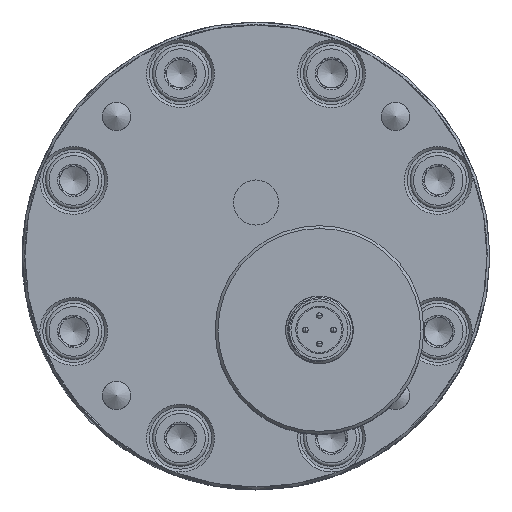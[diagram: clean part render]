
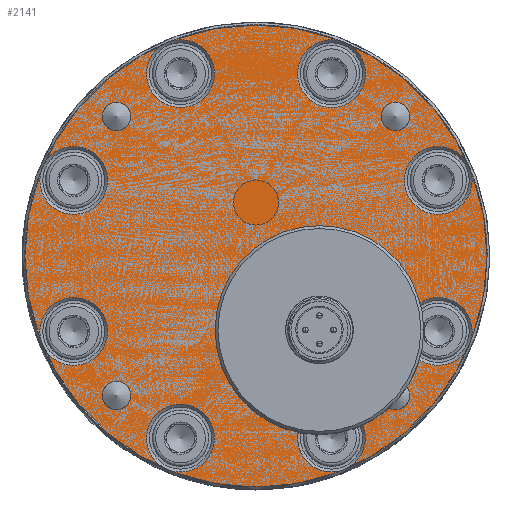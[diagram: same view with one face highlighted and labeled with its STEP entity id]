
A CAD part, top view. The second image highlights one B-rep face of the part: STEP entity #2141.
In plain terms, the highlighted planar face has unit normal (0, 0, -1).
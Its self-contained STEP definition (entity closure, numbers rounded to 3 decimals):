
#2141=ADVANCED_FACE('',(#2641,#2642,#2643,#2644,#2645,#2646,#2647,#2648,
#2649,#2650,#2651,#2652,#2653),#2395,.F.);
#2395=PLANE('',#8486);
#2641=FACE_BOUND('',#3363,.T.);
#2642=FACE_BOUND('',#3364,.T.);
#2643=FACE_BOUND('',#3365,.T.);
#2644=FACE_BOUND('',#3366,.T.);
#2645=FACE_BOUND('',#3367,.T.);
#2646=FACE_BOUND('',#3368,.T.);
#2647=FACE_BOUND('',#3369,.T.);
#2648=FACE_BOUND('',#3370,.T.);
#2649=FACE_BOUND('',#3371,.T.);
#2650=FACE_BOUND('',#3372,.T.);
#2651=FACE_BOUND('',#3373,.T.);
#2652=FACE_BOUND('',#3374,.T.);
#2653=FACE_BOUND('',#3375,.T.);
#3363=EDGE_LOOP('',(#5231));
#3364=EDGE_LOOP('',(#5232));
#3365=EDGE_LOOP('',(#5233));
#3366=EDGE_LOOP('',(#5234));
#3367=EDGE_LOOP('',(#5235));
#3368=EDGE_LOOP('',(#5236));
#3369=EDGE_LOOP('',(#5237));
#3370=EDGE_LOOP('',(#5238));
#3371=EDGE_LOOP('',(#5239));
#3372=EDGE_LOOP('',(#5240));
#3373=EDGE_LOOP('',(#5241));
#3374=EDGE_LOOP('',(#5242));
#3375=EDGE_LOOP('',(#5243));
#5231=ORIENTED_EDGE('',*,*,#7082,.T.);
#5232=ORIENTED_EDGE('',*,*,#7052,.T.);
#5233=ORIENTED_EDGE('',*,*,#7044,.T.);
#5234=ORIENTED_EDGE('',*,*,#7024,.T.);
#5235=ORIENTED_EDGE('',*,*,#7040,.T.);
#5236=ORIENTED_EDGE('',*,*,#7048,.T.);
#5237=ORIENTED_EDGE('',*,*,#7028,.T.);
#5238=ORIENTED_EDGE('',*,*,#7036,.T.);
#5239=ORIENTED_EDGE('',*,*,#7032,.T.);
#5240=ORIENTED_EDGE('',*,*,#7083,.T.);
#5241=ORIENTED_EDGE('',*,*,#7084,.T.);
#5242=ORIENTED_EDGE('',*,*,#7085,.T.);
#5243=ORIENTED_EDGE('',*,*,#7086,.T.);
#6039=VERTEX_POINT('',#17479);
#6043=VERTEX_POINT('',#17490);
#6047=VERTEX_POINT('',#17501);
#6051=VERTEX_POINT('',#17512);
#6055=VERTEX_POINT('',#17523);
#6059=VERTEX_POINT('',#17534);
#6063=VERTEX_POINT('',#17545);
#6067=VERTEX_POINT('',#17556);
#6089=VERTEX_POINT('',#17612);
#6090=VERTEX_POINT('',#17614);
#6091=VERTEX_POINT('',#17616);
#6092=VERTEX_POINT('',#17618);
#6093=VERTEX_POINT('',#17620);
#7024=EDGE_CURVE('',#6039,#6039,#7547,.T.);
#7028=EDGE_CURVE('',#6043,#6043,#7551,.T.);
#7032=EDGE_CURVE('',#6047,#6047,#7555,.T.);
#7036=EDGE_CURVE('',#6051,#6051,#7559,.T.);
#7040=EDGE_CURVE('',#6055,#6055,#7563,.T.);
#7044=EDGE_CURVE('',#6059,#6059,#7567,.T.);
#7048=EDGE_CURVE('',#6063,#6063,#7571,.T.);
#7052=EDGE_CURVE('',#6067,#6067,#7575,.T.);
#7082=EDGE_CURVE('',#6089,#6089,#7605,.T.);
#7083=EDGE_CURVE('',#6090,#6090,#7606,.T.);
#7084=EDGE_CURVE('',#6091,#6091,#7607,.T.);
#7085=EDGE_CURVE('',#6092,#6092,#7608,.T.);
#7086=EDGE_CURVE('',#6093,#6093,#7609,.T.);
#7547=CIRCLE('',#8398,3.25);
#7551=CIRCLE('',#8405,3.25);
#7555=CIRCLE('',#8412,3.25);
#7559=CIRCLE('',#8419,3.25);
#7563=CIRCLE('',#8426,3.25);
#7567=CIRCLE('',#8433,3.25);
#7571=CIRCLE('',#8440,3.25);
#7575=CIRCLE('',#8447,3.25);
#7605=CIRCLE('',#8481,41.);
#7606=CIRCLE('',#8482,2.5);
#7607=CIRCLE('',#8483,2.5);
#7608=CIRCLE('',#8484,2.5);
#7609=CIRCLE('',#8485,2.5);
#8398=AXIS2_PLACEMENT_3D('',#17478,#10340,#10341);
#8405=AXIS2_PLACEMENT_3D('',#17489,#10354,#10355);
#8412=AXIS2_PLACEMENT_3D('',#17500,#10368,#10369);
#8419=AXIS2_PLACEMENT_3D('',#17511,#10382,#10383);
#8426=AXIS2_PLACEMENT_3D('',#17522,#10396,#10397);
#8433=AXIS2_PLACEMENT_3D('',#17533,#10410,#10411);
#8440=AXIS2_PLACEMENT_3D('',#17544,#10424,#10425);
#8447=AXIS2_PLACEMENT_3D('',#17555,#10438,#10439);
#8481=AXIS2_PLACEMENT_3D('',#17611,#10506,#10507);
#8482=AXIS2_PLACEMENT_3D('',#17613,#10508,#10509);
#8483=AXIS2_PLACEMENT_3D('',#17615,#10510,#10511);
#8484=AXIS2_PLACEMENT_3D('',#17617,#10512,#10513);
#8485=AXIS2_PLACEMENT_3D('',#17619,#10514,#10515);
#8486=AXIS2_PLACEMENT_3D('',#17621,#10516,#10517);
#10340=DIRECTION('',(0.,0.,1.));
#10341=DIRECTION('',(1.,0.,0.));
#10354=DIRECTION('',(0.,0.,1.));
#10355=DIRECTION('',(1.,0.,0.));
#10368=DIRECTION('',(0.,0.,1.));
#10369=DIRECTION('',(1.,0.,0.));
#10382=DIRECTION('',(0.,0.,1.));
#10383=DIRECTION('',(1.,0.,0.));
#10396=DIRECTION('',(0.,0.,1.));
#10397=DIRECTION('',(1.,0.,0.));
#10410=DIRECTION('',(0.,0.,1.));
#10411=DIRECTION('',(1.,0.,0.));
#10424=DIRECTION('',(0.,0.,1.));
#10425=DIRECTION('',(1.,0.,0.));
#10438=DIRECTION('',(0.,0.,1.));
#10439=DIRECTION('',(1.,0.,0.));
#10506=DIRECTION('',(0.,0.,-1.));
#10507=DIRECTION('',(1.,0.,0.));
#10508=DIRECTION('',(0.,0.,1.));
#10509=DIRECTION('',(1.,0.,0.));
#10510=DIRECTION('',(0.,0.,1.));
#10511=DIRECTION('',(1.,0.,0.));
#10512=DIRECTION('',(0.,0.,1.));
#10513=DIRECTION('',(1.,0.,0.));
#10514=DIRECTION('',(0.,0.,1.));
#10515=DIRECTION('',(1.,0.,0.));
#10516=DIRECTION('',(0.,0.,1.));
#10517=DIRECTION('',(1.,0.,0.));
#17478=CARTESIAN_POINT('',(-118.11,121.504,-41.65));
#17479=CARTESIAN_POINT('',(-114.86,121.504,-41.65));
#17489=CARTESIAN_POINT('',(-163.839,75.774,-41.65));
#17490=CARTESIAN_POINT('',(-160.589,75.774,-41.65));
#17500=CARTESIAN_POINT('',(-182.781,121.504,-41.65));
#17501=CARTESIAN_POINT('',(-179.531,121.504,-41.65));
#17511=CARTESIAN_POINT('',(-182.781,94.716,-41.65));
#17512=CARTESIAN_POINT('',(-179.531,94.716,-41.65));
#17522=CARTESIAN_POINT('',(-118.11,94.716,-41.65));
#17523=CARTESIAN_POINT('',(-114.86,94.716,-41.65));
#17533=CARTESIAN_POINT('',(-137.052,140.446,-41.65));
#17534=CARTESIAN_POINT('',(-133.802,140.446,-41.65));
#17544=CARTESIAN_POINT('',(-137.052,75.774,-41.65));
#17545=CARTESIAN_POINT('',(-133.802,75.774,-41.65));
#17555=CARTESIAN_POINT('',(-163.839,140.446,-41.65));
#17556=CARTESIAN_POINT('',(-160.589,140.446,-41.65));
#17611=CARTESIAN_POINT('',(-150.446,108.11,-41.65));
#17612=CARTESIAN_POINT('',(-109.446,108.11,-41.65));
#17613=CARTESIAN_POINT('',(-175.194,83.361,-41.65));
#17614=CARTESIAN_POINT('',(-172.694,83.361,-41.65));
#17615=CARTESIAN_POINT('',(-125.697,83.361,-41.65));
#17616=CARTESIAN_POINT('',(-123.197,83.361,-41.65));
#17617=CARTESIAN_POINT('',(-125.697,132.859,-41.65));
#17618=CARTESIAN_POINT('',(-123.197,132.859,-41.65));
#17619=CARTESIAN_POINT('',(-175.194,132.859,-41.65));
#17620=CARTESIAN_POINT('',(-172.694,132.859,-41.65));
#17621=CARTESIAN_POINT('',(-150.446,108.11,-41.65));
